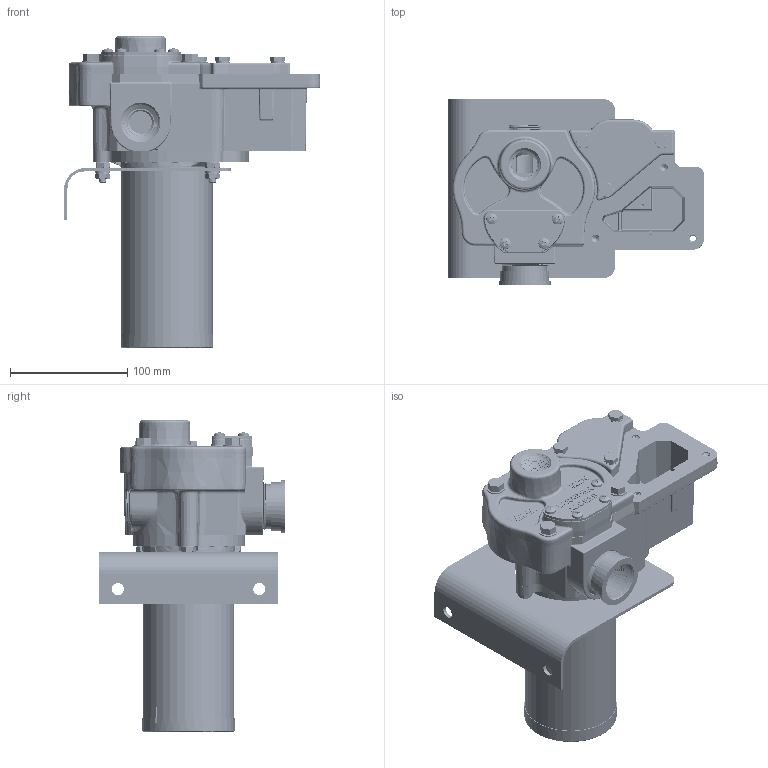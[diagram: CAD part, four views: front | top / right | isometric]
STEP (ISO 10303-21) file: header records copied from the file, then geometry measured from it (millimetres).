
FILE_DESCRIPTION(/* description */ (''),/* implementation_level */ '2;1');
FILE_NAME(/* name */ 'G:\PUBLIC\MKTG\Laura\WEBSITE PUMP MODEL STP\M-55_REF_ONLY.stp',/* time_stamp */ '2017-07-11T15:20:15-05:00',/* author */ ('gdonbak'),/* organization */ (''),/* preprocessor_version */ 'ST-DEVELOPER v16.5',/* originating_system */ 'Autodesk Inventor 2017',/* authorisation */ '');
FILE_SCHEMA (('AUTOMOTIVE_DESIGN { 1 0 10303 214 3 1 1 }'));
Length unit declared in the file: inch
Products named in the file (1): 110351-16_M-55_WEBSITE_MODEL_Shrinkwrap_1
Bounding box: 218.46 x 158.27 x 265.56 mm (x, y, z)
Surface area: 397119.8 mm2 (no closed solid volume)
Topology: 0 solids, 36 shells, 4280 faces, 10565 edges, 6404 vertices
Faces by surface type: plane 1249, cylinder 997, bspline 818, torus 649, cone 471, sphere 96
Full cylindrical faces by diameter (mm): 1.383 x1, 1.542 x1, 2.184 x4, 3.048 x1, 3.962 x2, 4.369 x1, 4.445 x2, 4.559 x1, 4.826 x4, 4.902 x1, 4.978 x3, 5.105 x56, 5.207 x4, 6.35 x13, 6.528 x24, 6.54 x9, 6.985 x3, 7.574 x4, 7.62 x4, 7.925 x3, 8.204 x1, 8.738 x4, 9.474 x4, 10.312 x2, 11.125 x5, 11.989 x3, 12.675 x2, 15.431 x2, 15.494 x4, 19.007 x1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
Entity records: 168886 total; most frequent: CARTESIAN_POINT 73525, ORIENTED_EDGE 19214, DIRECTION 18330, EDGE_CURVE 9606, AXIS2_PLACEMENT_3D 7187, VERTEX_POINT 5975, EDGE_LOOP 4599, FACE_OUTER_BOUND 4108
